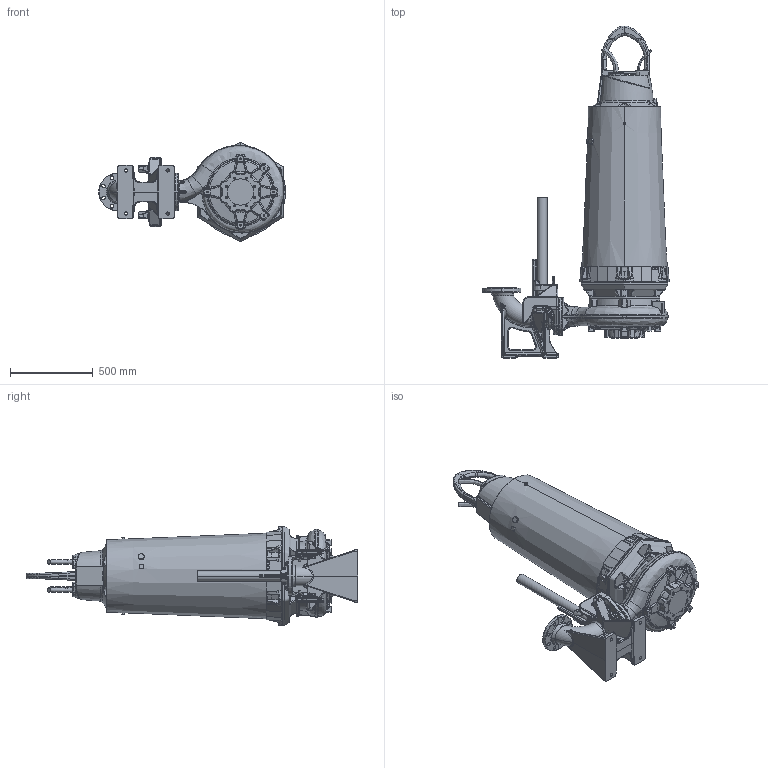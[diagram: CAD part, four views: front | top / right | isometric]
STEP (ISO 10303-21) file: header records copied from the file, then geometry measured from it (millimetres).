
FILE_DESCRIPTION (( 'STEP AP214' ), '1' );
FILE_NAME ('PE5_XFP100J-CH1_WET_B_NG2.STEP', '2017-02-23T06:50:17', ( '' ), ( '' ), 'SwSTEP 2.0', 'SolidWorks 2017', '' );
FILE_SCHEMA (( 'AUTOMOTIVE_DESIGN' ));
Length unit declared in the file: millimetre
Products named in the file (1): PE5_XFP100J-CH1_WET_B_NG2
Bounding box: 1124.29 x 2001.47 x 595.59 mm (x, y, z)
Volume: 280971130.7 mm3; surface area: 4444125.9 mm2
Topology: 4 solids, 13 shells, 4181 faces, 10298 edges, 6042 vertices
Faces by surface type: bspline 1423, cylinder 997, plane 863, torus 401, cone 343, sphere 154
Entity records: 271044 total; most frequent: CARTESIAN_POINT 138453, ORIENTED_EDGE 20260, DIRECTION 15502, EDGE_CURVE 10130, AXIS2_PLACEMENT_3D 6292, VERTEX_POINT 6038, EDGE_LOOP 4320, UNCERTAINTY_MEASURE_WITH_UNIT 4187
